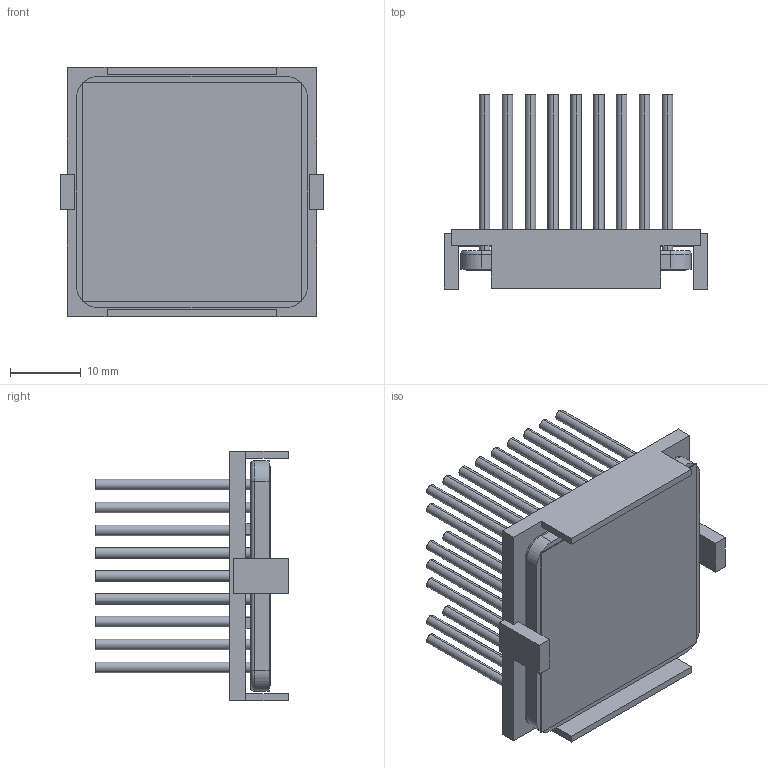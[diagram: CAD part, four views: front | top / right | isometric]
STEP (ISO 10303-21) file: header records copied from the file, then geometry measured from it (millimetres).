
FILE_DESCRIPTION (( 'STEP AP214' ), '1' );
FILE_NAME ('INM33002-25P-2.6K33.STEP', '2023-02-20T20:01:57', ( '' ), ( '' ), 'SwSTEP 2.0', 'SolidWorks 2020', '' );
FILE_SCHEMA (( 'AUTOMOTIVE_DESIGN' ));
Length unit declared in the file: inch
Products named in the file (1): INM33002-25P-2.6K33
Bounding box: 37.2 x 27.4 x 35.2 mm (x, y, z)
Volume: 7266.4 mm3; surface area: 14408.8 mm2
Topology: 3 solids, 3 shells, 297 faces, 646 edges, 428 vertices
Faces by surface type: cylinder 154, plane 139, torus 4
Entity records: 12155 total; most frequent: DIRECTION 1554, CARTESIAN_POINT 1372, ORIENTED_EDGE 1292, EDGE_CURVE 646, AXIS2_PLACEMENT_3D 610, VERTEX_POINT 428, EDGE_LOOP 372, LINE 334
